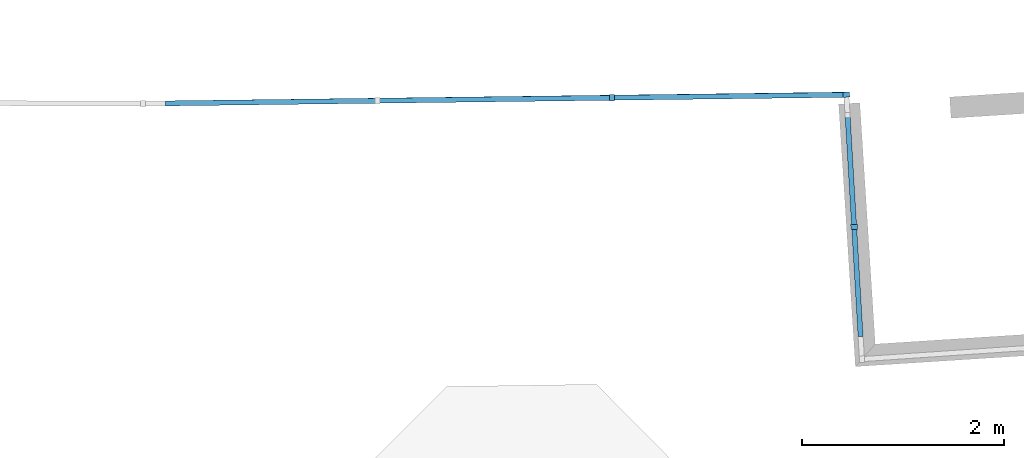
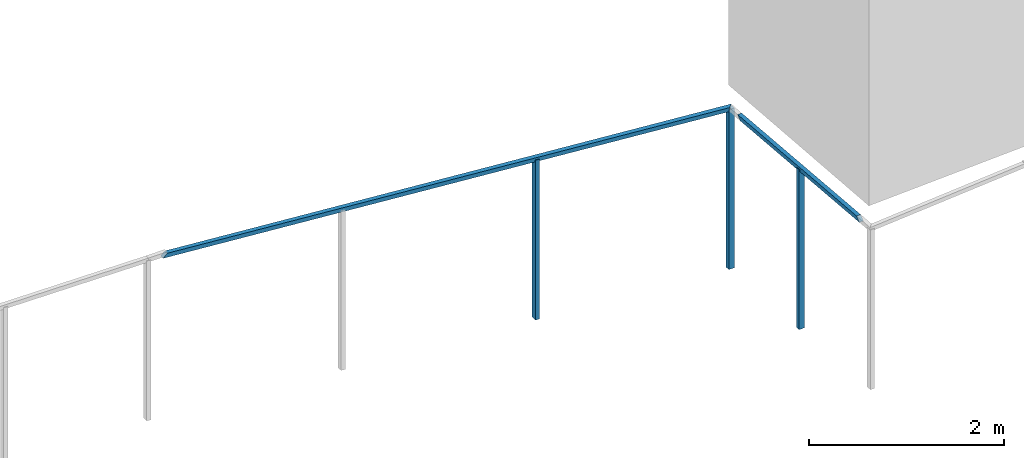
# One storey, part 76 of 91: 5 building element parts, 1 element without a shape of its own.
"""IFC2X3 building model written with IfcOpenShell, lengths in metres."""

from ifc_helpers import new_model, entity, si_unit, converted_unit, derived_unit, money_unit, direction, frame, origin_with_axes, place, context, subcontext, project, spatial, faceted_brep, material, type_object, element, aggregate, save


model = new_model("IFC2X3")

# Units and contexts
model_context = context("Model", 3, precision=1e-05, world=origin_with_axes(), true_north=direction((0.0, 1.0)))
body_context = subcontext(model_context, "Body", "Model", "MODEL_VIEW")
ifc_project = project(units=[si_unit("LENGTHUNIT", "METRE"), si_unit("AREAUNIT", "SQUARE_METRE"), si_unit("VOLUMEUNIT", "CUBIC_METRE"), converted_unit("PLANEANGLEUNIT", "DEGREE", entity("IfcPlaneAngleMeasure", 0.0174532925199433), si_unit("PLANEANGLEUNIT", "RADIAN"), dimensions=[0, 0, 0, 0, 0, 0, 0]), money_unit("EUR"), converted_unit("TIMEUNIT", "Year", entity("IfcTimeMeasure", 31557600.0), si_unit("TIMEUNIT", "SECOND"), dimensions=[0, 0, 1, 0, 0, 0, 0]), si_unit("MASSUNIT", "GRAM", prefix="KILO"), si_unit("THERMODYNAMICTEMPERATUREUNIT", "DEGREE_CELSIUS"), si_unit("LUMINOUSINTENSITYUNIT", "LUMEN"), si_unit("ENERGYUNIT", "JOULE", prefix="MEGA"), derived_unit("THERMALCONDUCTANCEUNIT", [(si_unit("POWERUNIT", "WATT"), 1), (si_unit("LENGTHUNIT", "METRE"), -1), (si_unit("THERMODYNAMICTEMPERATUREUNIT", "KELVIN"), -1)]), derived_unit("SPECIFICHEATCAPACITYUNIT", [(si_unit("ENERGYUNIT", "JOULE"), 1), (si_unit("MASSUNIT", "GRAM", prefix="KILO"), -1), (si_unit("THERMODYNAMICTEMPERATUREUNIT", "KELVIN"), -1)]), derived_unit("MASSDENSITYUNIT", [(si_unit("MASSUNIT", "GRAM", prefix="KILO"), 1), (si_unit("VOLUMEUNIT", "CUBIC_METRE"), -1)])], contexts=[model_context])

# Site, building, storey
site_placement = place(None, origin_with_axes())
site = spatial("IfcSite", under=ifc_project, at=site_placement, Name="Site", CompositionType="ELEMENT")
building_placement = place(site_placement, origin_with_axes())
building = spatial("IfcBuilding", under=site, at=building_placement, Name="Bâtiment", CompositionType="ELEMENT")
storey_placement = place(building_placement, origin_with_axes())
storey = spatial("IfcBuildingStorey", under=building, at=storey_placement, Name="RDC", CompositionType="ELEMENT", Elevation=0.0)

# Proxy, building element parts
building_element_proxy_type = type_object("IfcBuildingElementProxyType", Name="Type de garde-corps", PredefinedType="NOTDEFINED")
proxy_placement = place(storey_placement, frame((79.63337255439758, 3.614023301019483, -2.37161404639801), z_axis=(0.0, 0.0, 1.0), x_axis=(1.0, 0.0, 0.0)))
proxy = element("IfcBuildingElementProxy", 1, at=proxy_placement, inside=storey, type_object=building_element_proxy_type, Name="RAMPE-004")
ifc_material = material(Name="Acier Galva")
building_element_part_1_placement = place(proxy_placement, origin_with_axes())
building_element_part_1 = element("IfcBuildingElementPart", 2, at=building_element_part_1_placement, material=ifc_material, Name="Acier Galva", context=body_context, shape_type="Brep", body=[
    faceted_brep([(20.05039206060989, 3.65228424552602, -0.0005780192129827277), (19.98450560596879, 3.648414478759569, 0.00223983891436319), (19.98450594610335, 3.648408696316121, 2.001635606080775), (20.05333246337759, 3.602370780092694, -0.000372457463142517), (19.98744600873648, 3.598501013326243, 0.002445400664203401), (19.98744634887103, 3.598495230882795, 2.001635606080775), (20.05039172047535, 3.652290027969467, 2.001635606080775), (20.05333212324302, 3.602376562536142, 2.001635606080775)], [[[0, 1, 2]], [[0, 3, 4, 1]], [[1, 4, 5, 2]], [[0, 2, 6]], [[3, 0, 6, 7]], [[4, 3, 7]], [[4, 7, 5]], [[6, 2, 5, 7]]]),
])
building_element_part_2_placement = place(proxy_placement, origin_with_axes())
building_element_part_2 = element("IfcBuildingElementPart", 3, at=building_element_part_2_placement, material=ifc_material, Name="Acier Galva", context=body_context, shape_type="Brep", body=[
    faceted_brep([(20.18464905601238, 1.237230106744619, 2.054282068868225), (20.18758945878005, 1.187316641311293, 2.004885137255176), (20.05710757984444, 3.402252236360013, 1.977960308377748), (20.05416717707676, 3.452165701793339, 2.027357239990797), (20.13473559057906, 1.234289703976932, 2.054282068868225), (20.13767599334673, 1.184376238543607, 2.004885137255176), (20.00719411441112, 3.399311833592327, 1.977960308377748), (20.00425371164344, 3.449225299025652, 2.027357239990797)], [[[0, 1, 2, 3]], [[0, 4, 5, 1]], [[1, 5, 6, 2]], [[3, 2, 6, 7]], [[4, 0, 3, 7]], [[5, 4, 7, 6]]]),
])
building_element_part_3_placement = place(proxy_placement, origin_with_axes())
building_element_part_3 = element("IfcBuildingElementPart", 4, at=building_element_part_3_placement, material=ifc_material, Name="Acier Galva", context=body_context, shape_type="Brep", body=[
    faceted_brep([(20.1273942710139, 2.345168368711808, 0.01581781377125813), (20.06150849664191, 2.341287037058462, 0.01581781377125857), (20.06150849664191, 2.341287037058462, 2.015817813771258), (20.1273942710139, 2.345168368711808, 2.015817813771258), (20.13033467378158, 2.295254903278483, 0.01642456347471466), (20.06444889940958, 2.291373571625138, 0.0164245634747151), (20.06444889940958, 2.291373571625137, 2.016424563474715), (20.13033467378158, 2.295254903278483, 2.016424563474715)], [[[0, 1, 2, 3]], [[0, 4, 5, 1]], [[1, 5, 6, 2]], [[3, 2, 6, 7]], [[4, 0, 3, 7]], [[5, 4, 7, 6]]]),
])
building_element_part_4_placement = place(proxy_placement, origin_with_axes())
building_element_part_4 = element("IfcBuildingElementPart", 5, at=building_element_part_4_placement, material=ifc_material, Name="Acier Galva", context=body_context, shape_type="Brep", body=[
    faceted_brep([(20.04355544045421, 3.649605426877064, 2.026614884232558), (20.04139783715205, 3.651620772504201, 1.976656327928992), (13.24009783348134, 3.563612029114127, 2.557068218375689), (19.99644023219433, 3.599164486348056, 2.026614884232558), (19.99428262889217, 3.601179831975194, 1.976656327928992), (13.2407378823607, 3.513616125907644, 2.557068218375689), (13.29009373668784, 3.564252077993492, 2.602969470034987), (13.2907337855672, 3.514256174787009, 2.602969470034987)], [[[0, 1, 2]], [[0, 3, 4, 1]], [[1, 5, 2]], [[0, 2, 6]], [[3, 0, 6]], [[4, 3, 7]], [[1, 4, 5]], [[6, 2, 5, 7]], [[3, 6, 7]], [[4, 7, 5]]]),
])
building_element_part_5_placement = place(proxy_placement, origin_with_axes())
building_element_part_5 = element("IfcBuildingElementPart", 6, at=building_element_part_5_placement, material=ifc_material, Name="Acier Galva", context=body_context, shape_type="Brep", body=[
    faceted_brep([(17.67566970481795, 3.628396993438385, 0.2022798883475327), (17.67651456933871, 3.562402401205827, 0.2022798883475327), (17.67651456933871, 3.562402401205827, 2.202279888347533), (17.67566970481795, 3.628396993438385, 2.202279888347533), (17.72566560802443, 3.62903704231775, 0.1979981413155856), (17.72651047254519, 3.563042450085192, 0.1979981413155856), (17.72651047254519, 3.563042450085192, 2.197998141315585), (17.72566560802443, 3.62903704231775, 2.197998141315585)], [[[0, 1, 2, 3]], [[0, 4, 5, 1]], [[1, 5, 6, 2]], [[3, 2, 6, 7]], [[4, 0, 3, 7]], [[5, 4, 7, 6]]]),
])
aggregate(proxy, [building_element_part_1, building_element_part_2, building_element_part_3, building_element_part_4, building_element_part_5])

save(model, "model.ifc")
